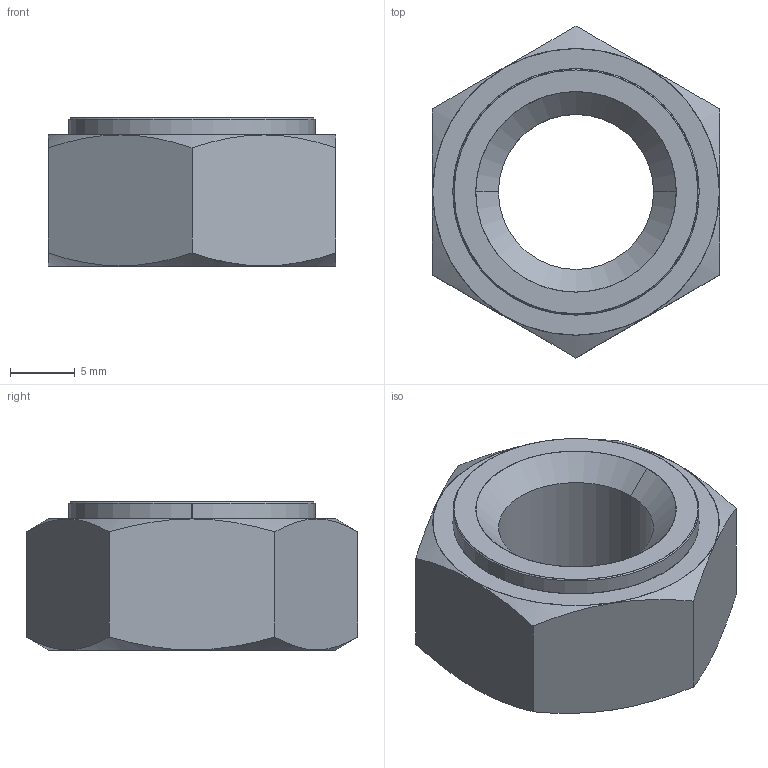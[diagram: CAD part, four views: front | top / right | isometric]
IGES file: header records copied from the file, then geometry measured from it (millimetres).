
Start section: SolidWorks IGES file using analytic representation for surfaces
Global section: file name: C:\Users\liam_\OneDrive\Desktop\Work\Mat Davis Pending 20181125\automotion\P SERIES\P0827.ZP_v2\P0827.ZP_v2_20181231_IGES\P0827.100-22G-ZP.igs; native system: SolidWorks 2017; preprocessor: SolidWorks 2017; author: liam_; date: 181231.111004; units: millimetre
Bounding box: 22.22 x 25.66 x 11.46 mm (x, y, z)
Surface area: 1805.8 mm2 (no closed solid volume)
Topology: 0 solids, 0 shells, 23 faces, 448 edges, 448 vertices
Faces by surface type: revolution 14, bspline 9
